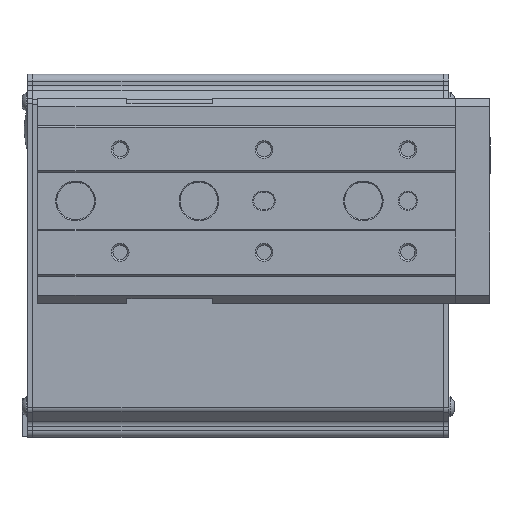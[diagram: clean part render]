
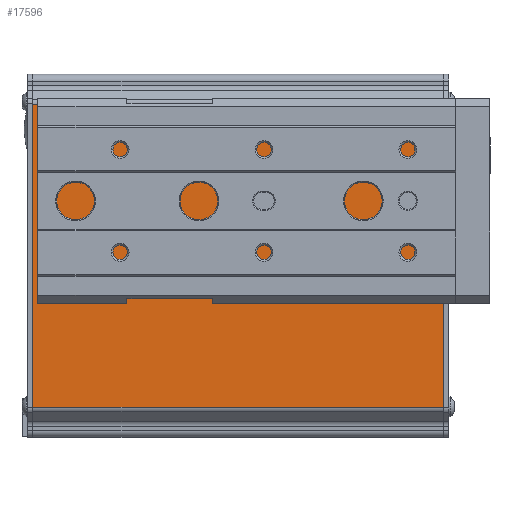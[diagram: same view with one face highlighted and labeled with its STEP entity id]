
A CAD part, top view. The second image highlights one B-rep face of the part: STEP entity #17596.
In plain terms, the highlighted planar face has unit normal (0, 0, 1).
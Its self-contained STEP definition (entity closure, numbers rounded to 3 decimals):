
#107 = CARTESIAN_POINT ( 'NONE',  ( 60., 44.172, 51. ) ) ;
#292 = DIRECTION ( 'NONE',  ( 1., 0., 0. ) ) ;
#552 = DIRECTION ( 'NONE',  ( 0., 1., 0. ) ) ;
#1969 = ORIENTED_EDGE ( 'NONE', *, *, #10289, .T. ) ;
#2071 = VERTEX_POINT ( 'NONE', #107 ) ;
#2557 = DIRECTION ( 'NONE',  ( 0., -1., 0. ) ) ;
#2715 = VERTEX_POINT ( 'NONE', #5904 ) ;
#2785 = ORIENTED_EDGE ( 'NONE', *, *, #7751, .T. ) ;
#3955 = CARTESIAN_POINT ( 'NONE',  ( 60., -44.172, 51. ) ) ;
#3967 = LINE ( 'NONE', #14936, #4160 ) ;
#4160 = VECTOR ( 'NONE', #2557, 1000. ) ;
#4646 = PLANE ( 'NONE',  #15647 ) ;
#4916 = DIRECTION ( 'NONE',  ( -1., 0., 0. ) ) ;
#4976 = CARTESIAN_POINT ( 'NONE',  ( 0., 0., 51. ) ) ;
#5174 = VERTEX_POINT ( 'NONE', #3955 ) ;
#5904 = CARTESIAN_POINT ( 'NONE',  ( -60., 44.172, 51. ) ) ;
#6127 = EDGE_LOOP ( 'NONE', ( #7644, #1969, #16417, #2785 ) ) ;
#6567 = CARTESIAN_POINT ( 'NONE',  ( 60., -44.172, 51. ) ) ;
#7644 = ORIENTED_EDGE ( 'NONE', *, *, #8508, .T. ) ;
#7751 = EDGE_CURVE ( 'NONE', #2071, #2715, #8307, .T. ) ;
#8307 = LINE ( 'NONE', #11032, #8324 ) ;
#8324 = VECTOR ( 'NONE', #4916, 1000. ) ;
#8508 = EDGE_CURVE ( 'NONE', #2715, #13464, #3967, .T. ) ;
#9176 = VECTOR ( 'NONE', #552, 1000. ) ;
#9241 = LINE ( 'NONE', #17100, #9176 ) ;
#10266 = DIRECTION ( 'NONE',  ( 1., 0., 0. ) ) ;
#10289 = EDGE_CURVE ( 'NONE', #13464, #5174, #14535, .T. ) ;
#11032 = CARTESIAN_POINT ( 'NONE',  ( -60., 44.172, 51. ) ) ;
#12189 = CARTESIAN_POINT ( 'NONE',  ( -60., -44.172, 51. ) ) ;
#12301 = EDGE_CURVE ( 'NONE', #5174, #2071, #9241, .T. ) ;
#12684 = FACE_OUTER_BOUND ( 'NONE', #6127, .T. ) ;
#13464 = VERTEX_POINT ( 'NONE', #12189 ) ;
#14510 = VECTOR ( 'NONE', #292, 1000. ) ;
#14535 = LINE ( 'NONE', #6567, #14510 ) ;
#14936 = CARTESIAN_POINT ( 'NONE',  ( -60., 53., 51. ) ) ;
#15647 = AXIS2_PLACEMENT_3D ( 'NONE', #4976, #16874, #10266 ) ;
#16417 = ORIENTED_EDGE ( 'NONE', *, *, #12301, .T. ) ;
#16874 = DIRECTION ( 'NONE',  ( 0., 0., 1. ) ) ;
#17100 = CARTESIAN_POINT ( 'NONE',  ( 60., 53., 51. ) ) ;
#17596 = ADVANCED_FACE ( 'NONE', ( #12684 ), #4646, .T. ) ;
